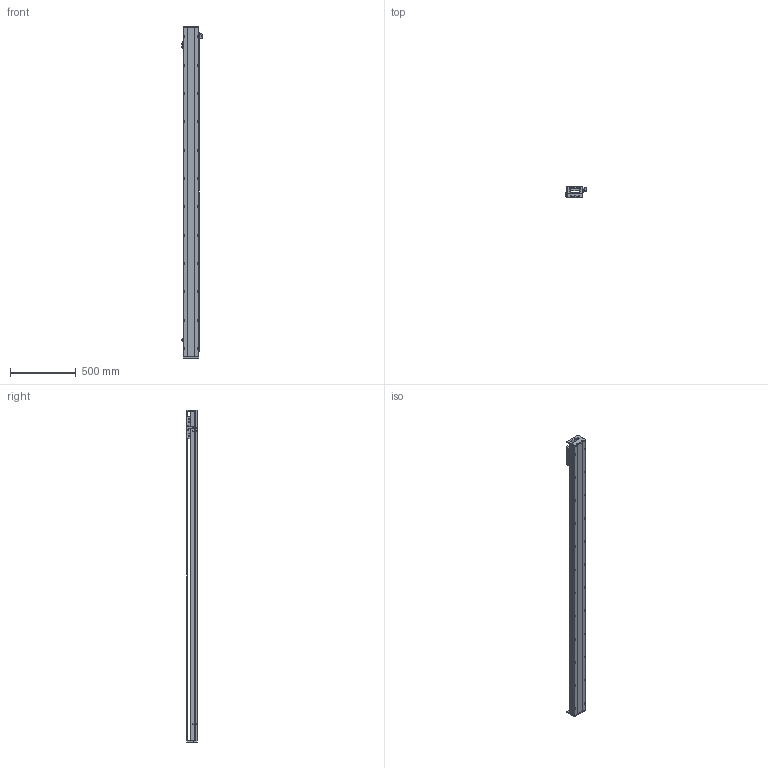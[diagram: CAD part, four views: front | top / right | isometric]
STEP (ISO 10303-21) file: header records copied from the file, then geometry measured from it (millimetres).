
FILE_DESCRIPTION (( 'STEP AP203' ), '1' );
FILE_NAME ('SKR12S-C1-S2262（简）.STEP', '2022-09-26T03:05:05', ( '' ), ( '' ), 'SwSTEP 2.0', 'SolidWorks 2018', '' );
FILE_SCHEMA (( 'CONFIG_CONTROL_DESIGN' ));
Length unit declared in the file: millimetre
Products named in the file (8): SKR12滑台-170L（简）; 棠掑假蚾輸; SKR12菁釱-C1-S2262(潠); EE-SX672; SKR12S-C1-S2262（简）; SIKO棠掑; 覜茼え; SKR12耜啣
Assembly tree (10 placements, depth 2):
  SKR12S-C1-S2262（简）
    SKR12菁釱-C1-S2262(潠)
    SKR12滑台-170L（简）
    SKR12耜啣  x2
    棠掑假蚾輸
    SIKO棠掑
    覜茼え
    EE-SX672  x3
Bounding box: 162.7 x 87.3 x 2532 mm (x, y, z)
Volume: 10797003.2 mm3; surface area: 1688535.3 mm2
Topology: 11 solids, 11 shells, 1142 faces, 3065 edges, 1933 vertices
Faces by surface type: cylinder 559, plane 425, cone 158
Entity records: 32441 total; most frequent: CARTESIAN_POINT 7111, DIRECTION 5219, ORIENTED_EDGE 5046, EDGE_CURVE 2523, AXIS2_PLACEMENT_3D 1953, VERTEX_POINT 1637, VECTOR 1313, LINE 1313
